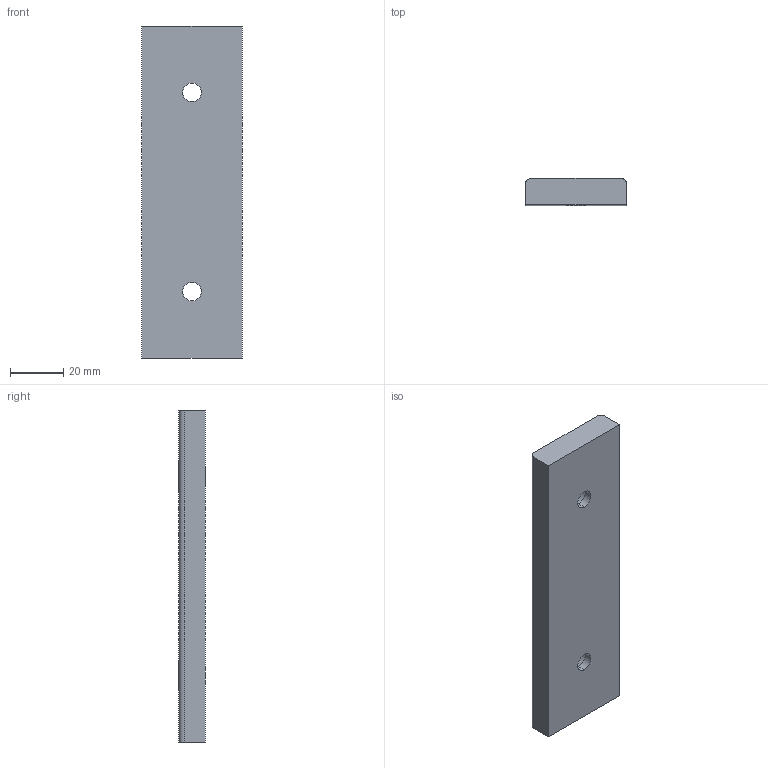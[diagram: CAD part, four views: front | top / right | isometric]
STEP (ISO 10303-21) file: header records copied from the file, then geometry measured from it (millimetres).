
FILE_DESCRIPTION(('CATIA V5 STEP Exchange'),'2;1');
FILE_NAME('C:\Users\Utente\Desktop\3D files A606\A606-038-125.stp','2020-04-13T18:05:40+00:00',('none'),('none'),'CATIA Version 5 Release 20 GA (IN-10)','CATIA V5 STEP AP203','none');
FILE_SCHEMA(('CONFIG_CONTROL_DESIGN'));
Length unit declared in the file: millimetre
Products named in the file (1): Noname
Bounding box: 38 x 10 x 125 mm (x, y, z)
Surface area: 13003.8 mm2 (no closed solid volume)
Topology: 0 solids, 14 shells, 18 faces, 76 edges, 68 vertices
Faces by surface type: cylinder 10, extrusion 8
Entity records: 1044 total; most frequent: CARTESIAN_POINT 415, DIRECTION 84, ORIENTED_EDGE 84, EDGE_CURVE 76, VERTEX_POINT 68, VECTOR 44, LINE 36, AXIS2_PLACEMENT_3D 31
